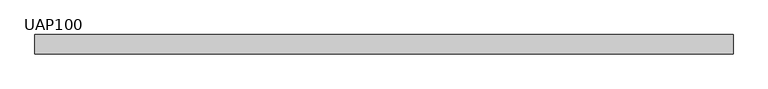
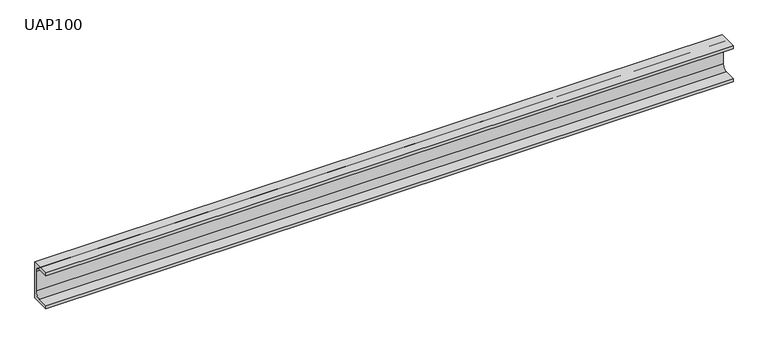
"""IFC4 building model written with IfcOpenShell, lengths in millimetres: beam geometry, U-Fers a ailes parallèles : UAP100."""

from ifc_helpers import new_model, si_unit, point, frame, frame_2d, origin, place, context, project, spatial, polyline, circle_curve, trimmed, segment, composite_curve, outline, extrude, source, transform, mapped, element, save


def uap100_4d19cb60(model_context):
    return source(origin(), model_context, "Body", "SweptSolid", [
        extrude(outline(composite_curve([segment(polyline([(17.0, 50.0), (17.0, -50.0), (-33.0, -50.0), (-33.0, -41.5), (-2.5, -41.5)]), True, "CONTINUOUS"), segment(trimmed(circle_curve(frame_2d((-2.5, -27.5)), 14.0), [point((-2.5, -41.5))], [point((11.5, -27.5))], True, "CARTESIAN"), True, "CONTINUOUS"), segment(polyline([(11.5, -27.5), (11.5, 27.5)]), True, "CONTINUOUS"), segment(trimmed(circle_curve(frame_2d((-2.5, 27.5)), 14.0), [point((11.5, 27.5))], [point((-2.5, 41.5))], True, "CARTESIAN"), True, "CONTINUOUS"), segment(polyline([(-2.5, 41.5), (-33.0, 41.5), (-33.0, 50.0), (17.0, 50.0)]), True, "CONTINUOUS")], self_intersect=False)), frame((-905.6567083, 0.0, 0.0), z_axis=(1.0, 0.0, 0.0), x_axis=(0.0, 1.0, 0.0)), (0.0, 0.0, 1.0), 1811.3134166),
    ])


if __name__ == "__main__":
    model = new_model("IFC4")
    model_context = context("Model", 3, world=origin())
    ifc_project = project(units=[si_unit("LENGTHUNIT", "METRE", prefix="MILLI")], contexts=[model_context])
    site = spatial("IfcSite", under=ifc_project)
    building = spatial("IfcBuilding", under=site)
    placement = place(None, origin())
    uap100_shape = uap100_4d19cb60(model_context)
    element("IfcBeam", 1, ObjectType="U-Fers a ailes parallèles : UAP100", at=placement, inside=building, context=model_context, shape_type="MappedRepresentation", body=[
        mapped(uap100_shape, transform((0.0, 0.0, 0.0), x_axis=(1.0, 0.0, 0.0), y_axis=(0.0, 1.0, 0.0), z_axis=(0.0, 0.0, 1.0))),
    ])
    save(model, "model.ifc")
